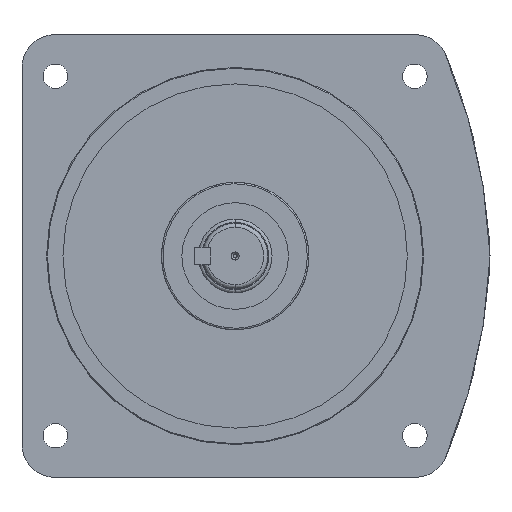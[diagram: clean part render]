
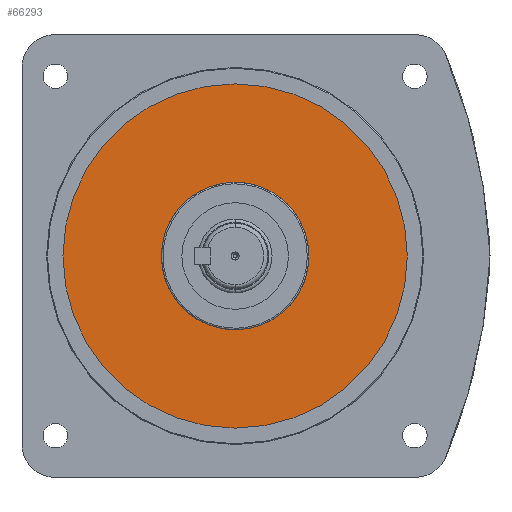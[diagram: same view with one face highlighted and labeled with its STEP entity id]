
A CAD part, left-side view. The second image highlights one B-rep face of the part: STEP entity #66293.
In plain terms, the highlighted planar face has unit normal (-1, 0, 0).
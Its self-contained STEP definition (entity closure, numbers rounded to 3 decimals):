
#2895 = AXIS2_PLACEMENT_3D ( 'NONE', #17256, #65536, #24305 ) ;
#5421 = VERTEX_POINT ( 'NONE', #12240 ) ;
#7210 = EDGE_LOOP ( 'NONE', ( #44882, #25542 ) ) ;
#8209 = EDGE_CURVE ( 'NONE', #35340, #49728, #75311, .T. ) ;
#12240 = CARTESIAN_POINT ( 'NONE',  ( 0., 0., 45. ) ) ;
#13232 = DIRECTION ( 'NONE',  ( 0., 0., -1. ) ) ;
#14069 = FACE_OUTER_BOUND ( 'NONE', #60428, .T. ) ;
#15530 = CARTESIAN_POINT ( 'NONE',  ( 0., 0., 105. ) ) ;
#16762 = VERTEX_POINT ( 'NONE', #76629 ) ;
#17256 = CARTESIAN_POINT ( 'NONE',  ( 0., 0., 0. ) ) ;
#19970 = CARTESIAN_POINT ( 'NONE',  ( 0., 0., 0. ) ) ;
#21212 = ORIENTED_EDGE ( 'NONE', *, *, #8209, .T. ) ;
#24305 = DIRECTION ( 'NONE',  ( 0., 0., -1. ) ) ;
#25542 = ORIENTED_EDGE ( 'NONE', *, *, #83203, .F. ) ;
#26218 = AXIS2_PLACEMENT_3D ( 'NONE', #82136, #41028, #89014 ) ;
#26887 = CARTESIAN_POINT ( 'NONE',  ( 0., 0., 0. ) ) ;
#27028 = AXIS2_PLACEMENT_3D ( 'NONE', #19970, #54610, #13232 ) ;
#33754 = DIRECTION ( 'NONE',  ( 0., 0., -1. ) ) ;
#35340 = VERTEX_POINT ( 'NONE', #70677 ) ;
#40792 = PLANE ( 'NONE',  #27028 ) ;
#41028 = DIRECTION ( 'NONE',  ( -1., 0., 0. ) ) ;
#44882 = ORIENTED_EDGE ( 'NONE', *, *, #76991, .F. ) ;
#46795 = AXIS2_PLACEMENT_3D ( 'NONE', #26887, #74982, #33754 ) ;
#49074 = CIRCLE ( 'NONE', #2895, 45. ) ;
#49728 = VERTEX_POINT ( 'NONE', #15530 ) ;
#51603 = EDGE_CURVE ( 'NONE', #49728, #35340, #61544, .T. ) ;
#54610 = DIRECTION ( 'NONE',  ( 1., 0., 0. ) ) ;
#60284 = DIRECTION ( 'NONE',  ( 0., 0., -1. ) ) ;
#60428 = EDGE_LOOP ( 'NONE', ( #21212, #79382 ) ) ;
#61544 = CIRCLE ( 'NONE', #26218, 105. ) ;
#65536 = DIRECTION ( 'NONE',  ( -1., 0., 0. ) ) ;
#66293 = ADVANCED_FACE ( 'NONE', ( #67001, #14069 ), #40792, .F. ) ;
#67001 = FACE_BOUND ( 'NONE', #7210, .T. ) ;
#67776 = CARTESIAN_POINT ( 'NONE',  ( 0., 0., 0. ) ) ;
#70677 = CARTESIAN_POINT ( 'NONE',  ( 0., 0., -105. ) ) ;
#72822 = CIRCLE ( 'NONE', #46795, 45. ) ;
#74982 = DIRECTION ( 'NONE',  ( -1., 0., 0. ) ) ;
#75311 = CIRCLE ( 'NONE', #79980, 105. ) ;
#75683 = DIRECTION ( 'NONE',  ( -1., 0., 0. ) ) ;
#76629 = CARTESIAN_POINT ( 'NONE',  ( 0., 0., -45. ) ) ;
#76991 = EDGE_CURVE ( 'NONE', #16762, #5421, #72822, .T. ) ;
#79382 = ORIENTED_EDGE ( 'NONE', *, *, #51603, .T. ) ;
#79980 = AXIS2_PLACEMENT_3D ( 'NONE', #67776, #75683, #60284 ) ;
#82136 = CARTESIAN_POINT ( 'NONE',  ( 0., 0., 0. ) ) ;
#83203 = EDGE_CURVE ( 'NONE', #5421, #16762, #49074, .T. ) ;
#89014 = DIRECTION ( 'NONE',  ( 0., 0., -1. ) ) ;
